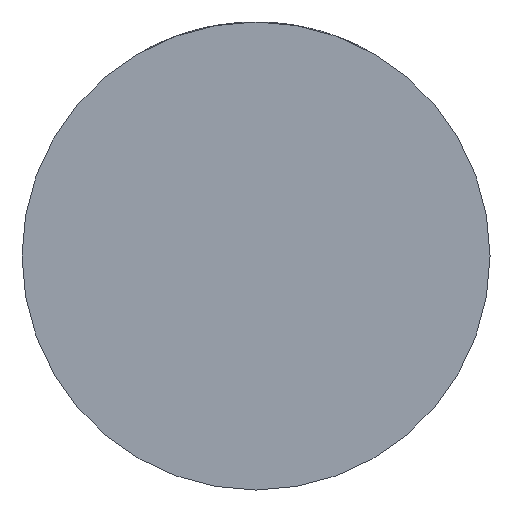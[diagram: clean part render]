
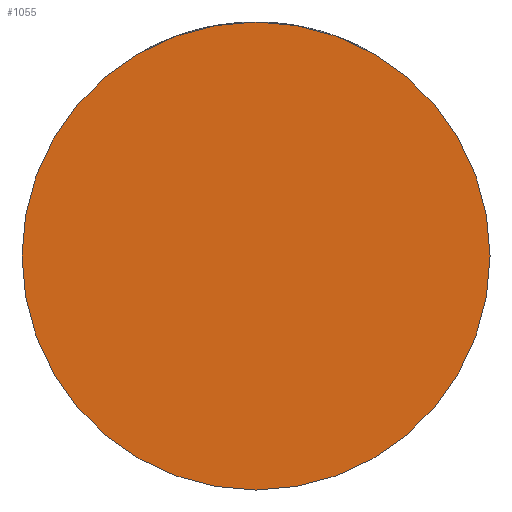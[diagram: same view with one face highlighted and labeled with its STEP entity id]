
A CAD part, front view. The second image highlights one B-rep face of the part: STEP entity #1055.
In plain terms, the highlighted planar face has unit normal (0, -1, 0).
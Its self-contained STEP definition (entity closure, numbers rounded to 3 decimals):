
#25 = DIRECTION ( 'NONE',  ( 1., 0., 0. ) ) ;
#82 = EDGE_CURVE ( 'NONE', #1626, #575, #3091, .T. ) ;
#331 = EDGE_CURVE ( 'NONE', #575, #1626, #799, .T. ) ;
#452 = DIRECTION ( 'NONE',  ( 0., -1., 0. ) ) ;
#575 = VERTEX_POINT ( 'NONE', #3510 ) ;
#654 = AXIS2_PLACEMENT_3D ( 'NONE', #1775, #1727, #25 ) ;
#690 = ORIENTED_EDGE ( 'NONE', *, *, #331, .T. ) ;
#799 = CIRCLE ( 'NONE', #2855, 49. ) ;
#947 = CARTESIAN_POINT ( 'NONE',  ( 0., -42., 0. ) ) ;
#967 = DIRECTION ( 'NONE',  ( 0., -1., 0. ) ) ;
#1055 = ADVANCED_FACE ( 'NONE', ( #1400 ), #1469, .T. ) ;
#1400 = FACE_OUTER_BOUND ( 'NONE', #3506, .T. ) ;
#1469 = PLANE ( 'NONE',  #654 ) ;
#1599 = AXIS2_PLACEMENT_3D ( 'NONE', #4346, #452, #2600 ) ;
#1614 = DIRECTION ( 'NONE',  ( 1., 0., 0. ) ) ;
#1626 = VERTEX_POINT ( 'NONE', #4060 ) ;
#1727 = DIRECTION ( 'NONE',  ( 0., -1., 0. ) ) ;
#1775 = CARTESIAN_POINT ( 'NONE',  ( 0., -42., 0. ) ) ;
#2600 = DIRECTION ( 'NONE',  ( 1., 0., 0. ) ) ;
#2855 = AXIS2_PLACEMENT_3D ( 'NONE', #947, #967, #1614 ) ;
#3091 = CIRCLE ( 'NONE', #1599, 49. ) ;
#3506 = EDGE_LOOP ( 'NONE', ( #4145, #690 ) ) ;
#3510 = CARTESIAN_POINT ( 'NONE',  ( 49., -42., 0. ) ) ;
#4060 = CARTESIAN_POINT ( 'NONE',  ( -49., -42., 0. ) ) ;
#4145 = ORIENTED_EDGE ( 'NONE', *, *, #82, .T. ) ;
#4346 = CARTESIAN_POINT ( 'NONE',  ( 0., -42., 0. ) ) ;
